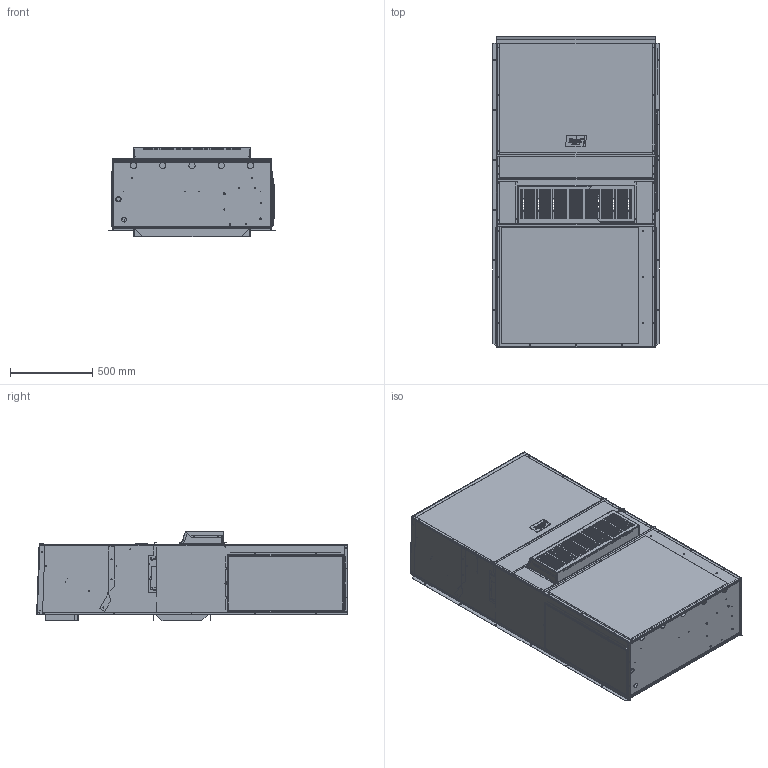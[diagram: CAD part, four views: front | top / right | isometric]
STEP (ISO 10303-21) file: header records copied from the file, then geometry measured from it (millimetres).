
FILE_DESCRIPTION (( 'STEP AP203' ), '1' );
FILE_NAME ('STEP_800_3.STEP', '2016-06-21T20:22:20', ( '' ), ( '' ), 'SwSTEP 2.0', 'SolidWorks 2016', '' );
FILE_SCHEMA (( 'CONFIG_CONTROL_DESIGN' ));
Products named in the file (1): STEP_800_3
Bounding box: 1015.56 x 1893.82 x 545.45 mm (x, y, z)
Volume: 7896533.5 mm3; surface area: 14566318.2 mm2
Topology: 51 solids, 51 shells, 4223 faces, 11495 edges, 7470 vertices
Faces by surface type: plane 1889, cylinder 1237, torus 894, bspline 169, sphere 18, cone 16
Entity records: 168502 total; most frequent: CARTESIAN_POINT 58677, ORIENTED_EDGE 22954, DIRECTION 22798, EDGE_CURVE 11477, AXIS2_PLACEMENT_3D 8335, VERTEX_POINT 7467, VECTOR 6128, LINE 6128
